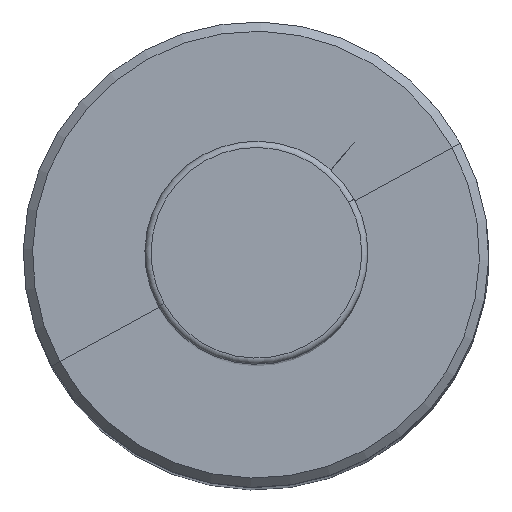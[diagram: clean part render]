
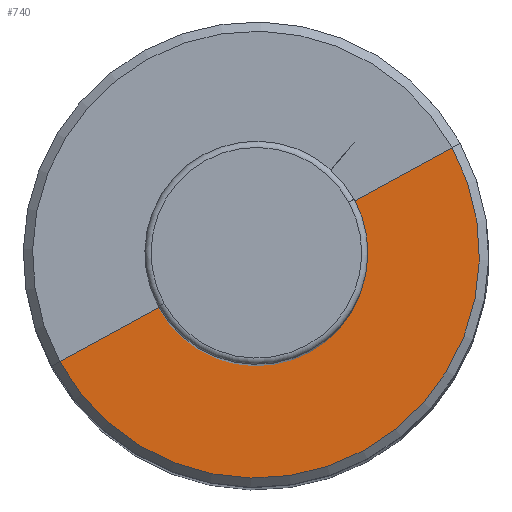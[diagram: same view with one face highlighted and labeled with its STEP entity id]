
A CAD part, top view. The second image highlights one B-rep face of the part: STEP entity #740.
In plain terms, the highlighted conical face has half-angle 89.986 degrees and reference radius 0 mm.
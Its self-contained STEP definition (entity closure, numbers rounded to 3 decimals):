
#680=CARTESIAN_POINT('Axis2P3D Location',(-0.067,0.,281.991)) ;
#684=CARTESIAN_POINT('Vertex',(-31.72,-17.292,281.984)) ;
#686=CARTESIAN_POINT('Vertex',(31.585,17.292,281.999)) ;
#718=CARTESIAN_POINT('Axis2P3D Location',(-0.067,0.,282.)) ;
#723=CARTESIAN_POINT('Line Origine',(-15.894,-8.646,281.992)) ;
#727=CARTESIAN_POINT('Vertex',(-0.067,0.,282.)) ;
#730=CARTESIAN_POINT('Line Origine',(15.759,8.646,281.999)) ;
#681=DIRECTION('Axis2P3D Direction',(0.,0.,-1.)) ;
#719=DIRECTION('Axis2P3D Direction',(0.,0.,-1.)) ;
#720=DIRECTION('Axis2P3D XDirection',(0.878,0.479,0.)) ;
#724=DIRECTION('Vector Direction',(-0.878,-0.479,0.)) ;
#731=DIRECTION('Vector Direction',(0.878,0.479,0.)) ;
#682=AXIS2_PLACEMENT_3D('Circle Axis2P3D',#680,#681,$) ;
#721=AXIS2_PLACEMENT_3D('Cone Axis2P3D',#718,#719,#720) ;
#736=ORIENTED_EDGE('',*,*,#729,.T.) ;
#737=ORIENTED_EDGE('',*,*,#688,.T.) ;
#738=ORIENTED_EDGE('',*,*,#734,.F.) ;
#725=VECTOR('Line Direction',#724,1.) ;
#732=VECTOR('Line Direction',#731,1.) ;
#740=ADVANCED_FACE('',(#739),#722,.T.) ;
#683=CIRCLE('generated circle',#682,36.067) ;
#722=CONICAL_SURFACE('Cone',#721,0.,1.571) ;
#688=EDGE_CURVE('',#685,#687,#683,.F.) ;
#729=EDGE_CURVE('',#728,#685,#726,.T.) ;
#734=EDGE_CURVE('',#728,#687,#733,.T.) ;
#735=EDGE_LOOP('',(#736,#737,#738)) ;
#739=FACE_OUTER_BOUND('',#735,.T.) ;
#726=LINE('Line',#723,#725) ;
#733=LINE('Line',#730,#732) ;
#685=VERTEX_POINT('',#684) ;
#687=VERTEX_POINT('',#686) ;
#728=VERTEX_POINT('',#727) ;
